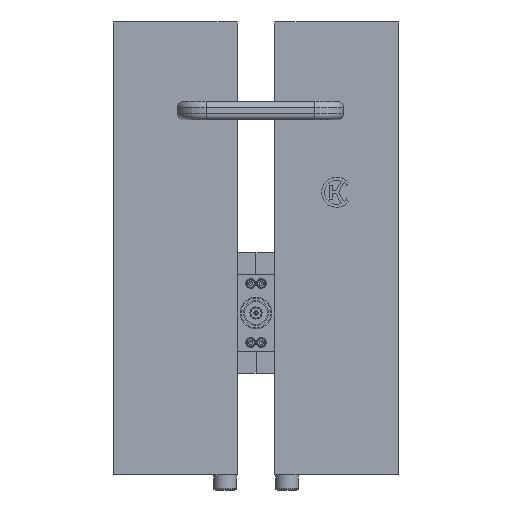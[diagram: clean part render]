
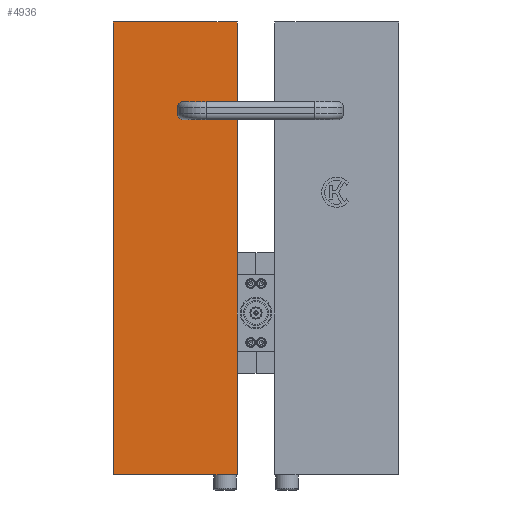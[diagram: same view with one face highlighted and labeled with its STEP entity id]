
A CAD part, front view. The second image highlights one B-rep face of the part: STEP entity #4936.
In plain terms, the highlighted planar face has unit normal (0, -1, 0) as drawn and (-1, 0, 0) by its records, which use the part's own axes.
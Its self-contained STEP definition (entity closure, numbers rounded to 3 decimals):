
#4936=ADVANCED_FACE('',(#9131),#9133,.T.);
#9131=FACE_BOUND('',#9132,.T.);
#9132=EDGE_LOOP('',(#13795,#13796,#13797,#13798));
#9133=PLANE('',#9134);
#9134=AXIS2_PLACEMENT_3D('',#9135,#9136,#9137);
#9135=CARTESIAN_POINT('',(-150.,0.,-150.));
#9136=DIRECTION('',(-1.,0.,0.));
#9137=DIRECTION('',(0.,-1.,0.));
#13795=ORIENTED_EDGE('',*,*,#15434,.T.);
#13796=ORIENTED_EDGE('',*,*,#15664,.T.);
#13797=ORIENTED_EDGE('',*,*,#15454,.F.);
#13798=ORIENTED_EDGE('',*,*,#15436,.F.);
#15434=EDGE_CURVE('',#17359,#17357,#17360,.T.);
#15436=EDGE_CURVE('',#17359,#17362,#17363,.T.);
#15454=EDGE_CURVE('',#17362,#17397,#17398,.T.);
#15664=EDGE_CURVE('',#17357,#17397,#17720,.T.);
#17357=VERTEX_POINT('',#21419);
#17359=VERTEX_POINT('',#21423);
#17360=LINE('',#21424,#21425);
#17362=VERTEX_POINT('',#21430);
#17363=LINE('',#21431,#21432);
#17397=VERTEX_POINT('',#21517);
#17398=LINE('',#21518,#21519);
#17720=LINE('',#22276,#22277);
#21419=CARTESIAN_POINT('',(-150.,-82.,-150.));
#21423=CARTESIAN_POINT('',(-150.,0.,-150.));
#21424=CARTESIAN_POINT('',(-150.,0.,-150.));
#21425=VECTOR('',#21426,1.);
#21426=DIRECTION('',(0.,-1.,0.));
#21430=CARTESIAN_POINT('',(-150.,0.,150.));
#21431=CARTESIAN_POINT('',(-150.,0.,-150.));
#21432=VECTOR('',#21433,1.);
#21433=DIRECTION('',(0.,0.,1.));
#21517=CARTESIAN_POINT('',(-150.,-82.,150.));
#21518=CARTESIAN_POINT('',(-150.,0.,150.));
#21519=VECTOR('',#21520,1.);
#21520=DIRECTION('',(0.,-1.,0.));
#22276=CARTESIAN_POINT('',(-150.,-82.,-150.));
#22277=VECTOR('',#22278,1.);
#22278=DIRECTION('',(0.,0.,1.));
